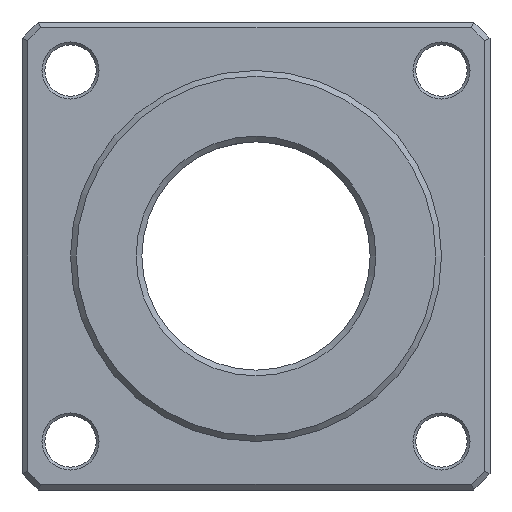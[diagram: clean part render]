
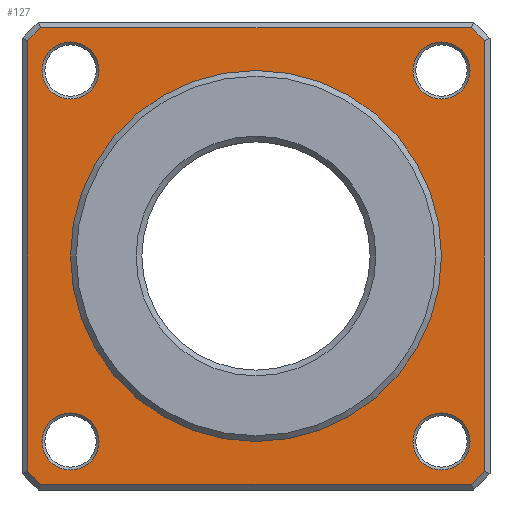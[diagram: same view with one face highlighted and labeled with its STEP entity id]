
A CAD part, left-side view. The second image highlights one B-rep face of the part: STEP entity #127.
In plain terms, the highlighted planar face has unit normal (-1, 0, 0).
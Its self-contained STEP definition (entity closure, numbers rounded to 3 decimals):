
#127=ADVANCED_FACE('',(#199,#200,#201,#202,#203,#204),#205,.F.);
#199=FACE_BOUND('',#363,.T.);
#200=FACE_BOUND('',#364,.T.);
#201=FACE_BOUND('',#365,.T.);
#202=FACE_BOUND('',#366,.T.);
#203=FACE_BOUND('',#367,.T.);
#204=FACE_OUTER_BOUND('',#368,.T.);
#205=PLANE('',#369);
#363=EDGE_LOOP('',(#535));
#364=EDGE_LOOP('',(#536));
#365=EDGE_LOOP('',(#537));
#366=EDGE_LOOP('',(#538));
#367=EDGE_LOOP('',(#539));
#368=EDGE_LOOP('',(#540,#541,#542,#543,#544,#545,#546,#547));
#369=AXIS2_PLACEMENT_3D('',#548,#549,#550);
#535=ORIENTED_EDGE('',*,*,#924,.T.);
#536=ORIENTED_EDGE('',*,*,#925,.T.);
#537=ORIENTED_EDGE('',*,*,#926,.T.);
#538=ORIENTED_EDGE('',*,*,#927,.T.);
#539=ORIENTED_EDGE('',*,*,#923,.F.);
#540=ORIENTED_EDGE('',*,*,#928,.T.);
#541=ORIENTED_EDGE('',*,*,#929,.T.);
#542=ORIENTED_EDGE('',*,*,#930,.T.);
#543=ORIENTED_EDGE('',*,*,#931,.T.);
#544=ORIENTED_EDGE('',*,*,#932,.T.);
#545=ORIENTED_EDGE('',*,*,#933,.T.);
#546=ORIENTED_EDGE('',*,*,#934,.T.);
#547=ORIENTED_EDGE('',*,*,#935,.T.);
#548=CARTESIAN_POINT('',(0.,56.0,0.0));
#549=DIRECTION('',(1.0,0.0,0.0));
#550=DIRECTION('',(0.0,0.0,-1.0));
#923=EDGE_CURVE('',#1038,#1038,#1039,.T.);
#924=EDGE_CURVE('',#1040,#1040,#1041,.T.);
#925=EDGE_CURVE('',#1042,#1042,#1043,.T.);
#926=EDGE_CURVE('',#1044,#1044,#1045,.T.);
#927=EDGE_CURVE('',#1046,#1046,#1047,.T.);
#928=EDGE_CURVE('',#1048,#1049,#1050,.F.);
#929=EDGE_CURVE('',#1049,#1051,#1052,.T.);
#930=EDGE_CURVE('',#1051,#1053,#1054,.F.);
#931=EDGE_CURVE('',#1053,#1055,#1056,.T.);
#932=EDGE_CURVE('',#1055,#1057,#1058,.F.);
#933=EDGE_CURVE('',#1057,#1059,#1060,.T.);
#934=EDGE_CURVE('',#1059,#1061,#1062,.F.);
#935=EDGE_CURVE('',#1061,#1048,#1063,.T.);
#1038=VERTEX_POINT('',#1350);
#1039=CIRCLE('',#1351,32.5);
#1040=VERTEX_POINT('',#1352);
#1041=CIRCLE('',#1353,5.0);
#1042=VERTEX_POINT('',#1354);
#1043=CIRCLE('',#1355,5.0);
#1044=VERTEX_POINT('',#1356);
#1045=CIRCLE('',#1357,5.0);
#1046=VERTEX_POINT('',#1358);
#1047=CIRCLE('',#1359,5.0);
#1048=VERTEX_POINT('',#1360);
#1049=VERTEX_POINT('',#1361);
#1050=CIRCLE('',#1362,55.0);
#1051=VERTEX_POINT('',#1363);
#1052=LINE('',#1364,#1365);
#1053=VERTEX_POINT('',#1366);
#1054=CIRCLE('',#1367,55.0);
#1055=VERTEX_POINT('',#1368);
#1056=LINE('',#1369,#1370);
#1057=VERTEX_POINT('',#1371);
#1058=CIRCLE('',#1372,55.0);
#1059=VERTEX_POINT('',#1373);
#1060=LINE('',#1374,#1375);
#1061=VERTEX_POINT('',#1376);
#1062=CIRCLE('',#1377,55.0);
#1063=LINE('',#1378,#1379);
#1350=CARTESIAN_POINT('',(0.0,0.0,32.5));
#1351=AXIS2_PLACEMENT_3D('',#1627,#1628,#1629);
#1352=CARTESIAN_POINT('',(0.,-32.5,-37.5));
#1353=AXIS2_PLACEMENT_3D('',#1630,#1631,#1632);
#1354=CARTESIAN_POINT('',(0.,32.5,-37.5));
#1355=AXIS2_PLACEMENT_3D('',#1633,#1634,#1635);
#1356=CARTESIAN_POINT('',(0.,32.5,27.5));
#1357=AXIS2_PLACEMENT_3D('',#1636,#1637,#1638);
#1358=CARTESIAN_POINT('',(0.,-32.5,27.5));
#1359=AXIS2_PLACEMENT_3D('',#1639,#1640,#1641);
#1360=CARTESIAN_POINT('',(0.,-40.0,37.749));
#1361=CARTESIAN_POINT('',(0.,-37.749,40.0));
#1362=AXIS2_PLACEMENT_3D('',#1642,#1643,#1644);
#1363=CARTESIAN_POINT('',(0.,37.749,40.0));
#1364=CARTESIAN_POINT('',(0.,36.661,40.0));
#1365=VECTOR('',#1645,1.0);
#1366=CARTESIAN_POINT('',(0.,40.0,37.749));
#1367=AXIS2_PLACEMENT_3D('',#1646,#1647,#1648);
#1368=CARTESIAN_POINT('',(0.,40.0,-37.749));
#1369=CARTESIAN_POINT('',(0.,40.0,-36.661));
#1370=VECTOR('',#1649,1.0);
#1371=CARTESIAN_POINT('',(0.,37.749,-40.0));
#1372=AXIS2_PLACEMENT_3D('',#1650,#1651,#1652);
#1373=CARTESIAN_POINT('',(0.,-37.749,-40.0));
#1374=CARTESIAN_POINT('',(0.,-36.661,-40.0));
#1375=VECTOR('',#1653,1.0);
#1376=CARTESIAN_POINT('',(0.,-40.0,-37.749));
#1377=AXIS2_PLACEMENT_3D('',#1654,#1655,#1656);
#1378=CARTESIAN_POINT('',(0.,-40.0,36.661));
#1379=VECTOR('',#1657,1.0);
#1627=CARTESIAN_POINT('',(0.0,0.0,0.0));
#1628=DIRECTION('',(-1.0,0.0,0.0));
#1629=DIRECTION('',(0.0,0.0,1.0));
#1630=CARTESIAN_POINT('',(0.,-32.5,-32.5));
#1631=DIRECTION('',(1.0,0.0,0.0));
#1632=DIRECTION('',(0.0,0.0,-1.0));
#1633=CARTESIAN_POINT('',(0.,32.5,-32.5));
#1634=DIRECTION('',(1.0,0.0,0.0));
#1635=DIRECTION('',(0.0,0.0,-1.0));
#1636=CARTESIAN_POINT('',(0.,32.5,32.5));
#1637=DIRECTION('',(1.0,0.0,0.0));
#1638=DIRECTION('',(0.0,0.0,-1.0));
#1639=CARTESIAN_POINT('',(0.,-32.5,32.5));
#1640=DIRECTION('',(1.0,0.0,0.0));
#1641=DIRECTION('',(0.0,0.0,-1.0));
#1642=CARTESIAN_POINT('',(0.,0.0,0.0));
#1643=DIRECTION('',(1.0,0.0,0.0));
#1644=DIRECTION('',(0.0,0.0,-1.0));
#1645=DIRECTION('',(0.0,1.0,0.0));
#1646=CARTESIAN_POINT('',(0.,0.0,0.0));
#1647=DIRECTION('',(1.0,0.0,0.0));
#1648=DIRECTION('',(0.0,0.0,-1.0));
#1649=DIRECTION('',(0.0,0.0,-1.0));
#1650=CARTESIAN_POINT('',(0.,0.0,0.0));
#1651=DIRECTION('',(1.0,0.0,0.0));
#1652=DIRECTION('',(0.0,0.0,-1.0));
#1653=DIRECTION('',(0.0,-1.0,0.0));
#1654=CARTESIAN_POINT('',(0.,0.0,0.0));
#1655=DIRECTION('',(1.0,0.0,0.0));
#1656=DIRECTION('',(0.0,0.0,-1.0));
#1657=DIRECTION('',(0.0,0.0,1.0));
